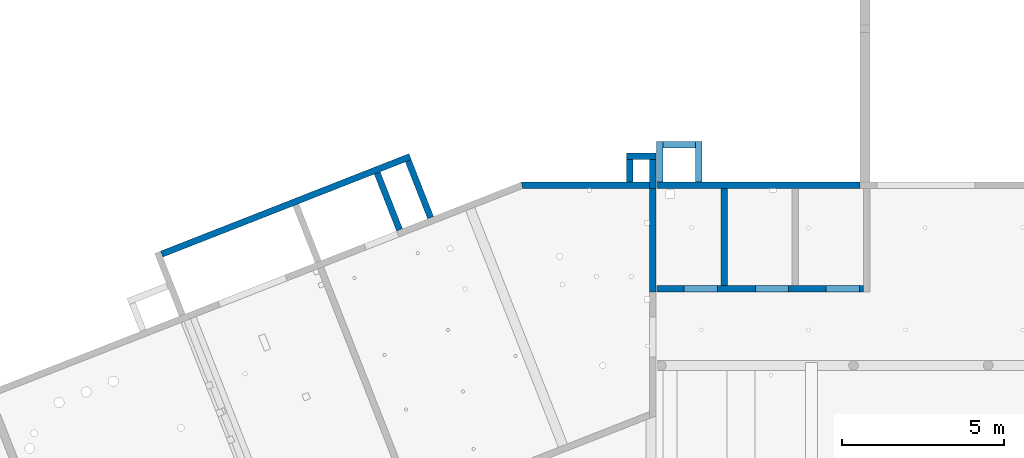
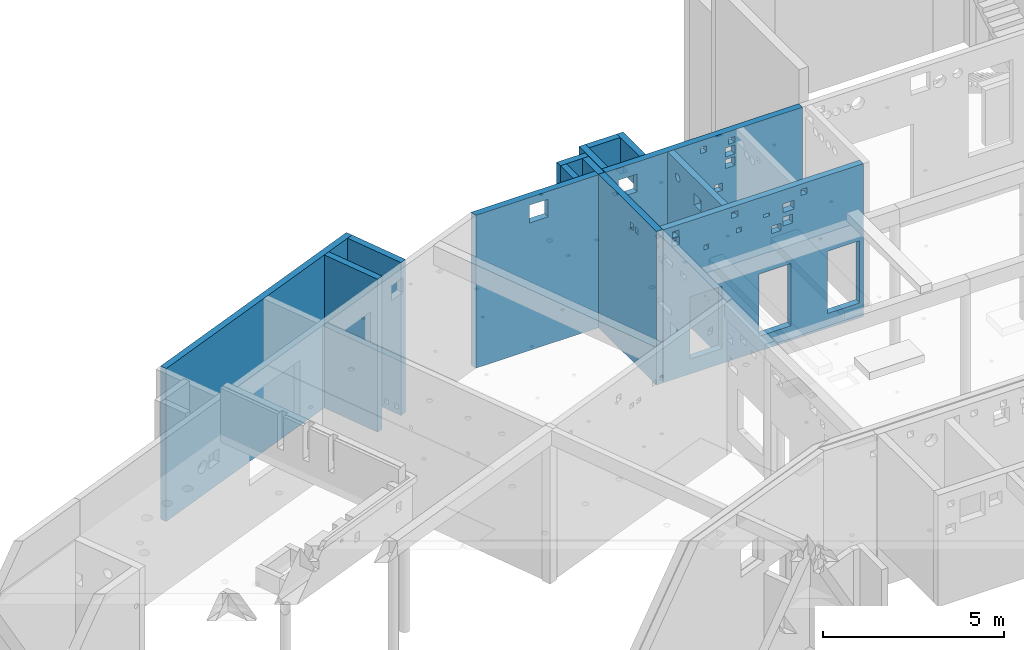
# One storey, part 24 of 28: 14 walls, 28 openings.
"""IFC2X3 building model written with IfcOpenShell, lengths in metres."""

from ifc_helpers import new_model, entity, si_unit, converted_unit, direction, frame, frame_2d, origin, origin_with_axes, place, context, subcontext, project, spatial, polyline, rectangle, outline, extrude, material, layer, layer_set, layer_usage, element, save


model = new_model("IFC2X3")

# Units and contexts
model_context = context("Model", 3, precision=1e-05, world=origin(), true_north=direction((-0.407059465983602, -0.913401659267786)))
body_context = subcontext(model_context, "Body", "Model", "MODEL_VIEW")
ifc_project = project(units=[si_unit("LENGTHUNIT", "METRE"), si_unit("AREAUNIT", "SQUARE_METRE"), si_unit("VOLUMEUNIT", "CUBIC_METRE"), si_unit("MASSUNIT", "GRAM", prefix="KILO"), converted_unit("PLANEANGLEUNIT", "DEGREE", entity("IfcPlaneAngleMeasure", 0.0174532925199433), si_unit("PLANEANGLEUNIT", "RADIAN"), dimensions=[0, 0, 0, 0, 0, 0, 0])], contexts=[model_context])

# Site, buildings, storey
site_placement = place(None, origin())
site = spatial("IfcSite", under=ifc_project, at=site_placement, Name="Site", CompositionType="ELEMENT")
building_1_placement = place(site_placement, origin())
building_1 = spatial("IfcBuilding", under=site, at=building_1_placement, Name="Site", CompositionType="COMPLEX")
building_2_placement = place(building_1_placement, origin())
building_2 = spatial("IfcBuilding", under=building_1, at=building_2_placement, Name="Bâtiments", CompositionType="ELEMENT")
storey_placement = place(building_2_placement, frame((0.0, 0.0, -5.3)))
storey = spatial("IfcBuildingStorey", under=building_2, at=storey_placement, Name="SOUS-SOL", CompositionType="ELEMENT", Elevation=-5.3)

# Walls
ifc_material_1 = material(Name="Béton")
ifc_layer_1 = layer(ifc_material_1, 0.2)
ifc_layer_set_1 = layer_set([ifc_layer_1])
ifc_layer_usage_1 = layer_usage(ifc_layer_set_1, "AXIS2", "POSITIVE", 0.0)
wall_1_placement = place(storey_placement, frame((20.2419990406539, 10.2884302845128, 0.0), z_axis=(0.0, 0.0, 1.0), x_axis=(-0.930910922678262, -0.365246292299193, 0.0)))
element("IfcWallStandardCase", 1, at=wall_1_placement, inside=storey, material=ifc_layer_usage_1, context=body_context, shape_type="SweptSolid", body=[
    extrude(rectangle(XDim=8.23416124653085, YDim=0.2, at=frame_2d((4.11708062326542, 0.0999999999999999), x_axis=(1.0, 0.0))), origin_with_axes(), (0.0, 0.0, 1.0), 5.16),
])
ifc_material_2 = material(Name="Béton")
ifc_layer_2 = layer(ifc_material_2, 0.200000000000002)
ifc_layer_set_2 = layer_set([ifc_layer_2])
ifc_layer_usage_2 = layer_usage(ifc_layer_set_2, "AXIS2", "POSITIVE", 0.0)
wall_2_placement = place(storey_placement, frame((20.0444121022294, 7.971919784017, 0.0), z_axis=(0.0, 0.0, 1.0), x_axis=(-0.365246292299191, 0.930910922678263, 0.0)))
element("IfcWallStandardCase", 2, at=wall_2_placement, inside=storey, material=ifc_layer_usage_2, context=body_context, shape_type="SweptSolid", body=[
    extrude(rectangle(XDim=1.88429703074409, YDim=0.200000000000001, at=frame_2d((0.942148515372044, 0.100000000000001), x_axis=(1.0, 0.0))), origin_with_axes(), (0.0, 0.0, 1.0), 5.16),
])
ifc_material_3 = material(Name="Béton")
ifc_layer_3 = layer(ifc_material_3, 0.200000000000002)
ifc_layer_set_3 = layer_set([ifc_layer_3])
ifc_layer_usage_3 = layer_usage(ifc_layer_set_3, "AXIS2", "POSITIVE", 0.0)
wall_3_placement = place(storey_placement, frame((21.0032808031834, 8.34813541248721, 0.0), z_axis=(0.0, 0.0, 1.0), x_axis=(-0.365246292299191, 0.930910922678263, 0.0)))
element("IfcWallStandardCase", 3, at=wall_3_placement, inside=storey, material=ifc_layer_usage_3, context=body_context, shape_type="SweptSolid", body=[
    extrude(rectangle(XDim=1.88429703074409, YDim=0.200000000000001, at=frame_2d((0.942148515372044, 0.100000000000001), x_axis=(1.0, 0.0))), origin_with_axes(), (0.0, 0.0, 1.0), 5.16),
])

# Wall, openings
ifc_material_4 = material(Name="Béton")
ifc_layer_4 = layer(ifc_material_4, 0.2)
ifc_layer_set_4 = layer_set([ifc_layer_4])
ifc_layer_usage_4 = layer_usage(ifc_layer_set_4, "AXIS2", "POSITIVE", -0.1)
wall_4_placement = place(storey_placement, frame((27.8826400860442, 6.01706783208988, 0.0)))
wall_4 = element("IfcWallStandardCase", 4, at=wall_4_placement, inside=storey, material=ifc_layer_usage_4, context=body_context, shape_type="SweptSolid", body=[
    extrude(outline(polyline([(0.0, 0.0), (6.3854506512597, 0.0), (6.3854506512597, 0.2), (4.59005408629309e-07, 0.2), (0.0, 0.0)])), origin_with_axes(), (0.0, 0.0, 1.0), 5.16),
])
opening_1_placement = place(wall_4_placement, frame((5.23295583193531, 0.0, 0.5), z_axis=(0.0, 1.0, 0.0), x_axis=(0.0, 0.0, 1.0)))
element("IfcOpeningElement", 5, at=opening_1_placement, cuts=wall_4, Name="Baie de porte", ObjectType="Opening", context=body_context, shape_type="SweptSolid", body=[
    extrude(outline(polyline([(0.0, 1.03), (2.1, 1.03), (2.1, 0.0), (0.0, 0.0), (0.0, 1.03)])), origin_with_axes(), (0.0, 0.0, 1.0), 0.2),
])
opening_2_placement = place(wall_4_placement, frame((4.38619867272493, 0.0, 4.78), z_axis=(0.0, 1.0, 0.0), x_axis=(0.0, 0.0, 1.0)))
element("IfcOpeningElement", 6, at=opening_2_placement, cuts=wall_4, Name="TE-030", ObjectType="Opening", context=body_context, shape_type="SweptSolid", body=[
    extrude(outline(polyline([(0.0, 0.2), (0.2, 0.2), (0.2, 0.0), (0.0, 0.0), (0.0, 0.2)])), origin_with_axes(), (0.0, 0.0, 1.0), 0.2),
])
opening_3_placement = place(wall_4_placement, frame((0.275077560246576, 0.0, 4.5), z_axis=(0.0, 1.0, 0.0), x_axis=(0.0, 0.0, 1.0)))
element("IfcOpeningElement", 7, at=opening_3_placement, cuts=wall_4, Name="PB-023", ObjectType="Opening", context=body_context, shape_type="SweptSolid", body=[
    extrude(outline(polyline([(0.0, 0.25), (0.25, 0.25), (0.25, 0.0), (0.0, 0.0), (0.0, 0.25)])), origin_with_axes(), (0.0, 0.0, 1.0), 0.2),
])
opening_4_placement = place(wall_4_placement, frame((0.300077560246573, 0.0, 4.78), z_axis=(0.0, 1.0, 0.0), x_axis=(0.0, 0.0, 1.0)))
element("IfcOpeningElement", 8, at=opening_4_placement, cuts=wall_4, Name="TE-028", ObjectType="Opening", context=body_context, shape_type="SweptSolid", body=[
    extrude(outline(polyline([(0.0, 0.2), (0.2, 0.2), (0.2, 0.0), (0.0, 0.0), (0.0, 0.2)])), origin_with_axes(), (0.0, 0.0, 1.0), 0.2),
])
opening_5_placement = place(wall_4_placement, frame((2.34227170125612, 0.0, 4.24), z_axis=(0.0, 1.0, 0.0), x_axis=(0.0, 0.0, 1.0)))
element("IfcOpeningElement", 9, at=opening_5_placement, cuts=wall_4, Name="PB-025", ObjectType="Opening", context=body_context, shape_type="SweptSolid", body=[
    extrude(outline(polyline([(0.0, 0.15), (0.15, 0.15), (0.15, 0.0), (0.0, 0.0), (0.0, 0.15)])), origin_with_axes(), (0.0, 0.0, 1.0), 0.2),
])
opening_6_placement = place(wall_4_placement, frame((2.18469592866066, 0.0, 4.78), z_axis=(0.0, 1.0, 0.0), x_axis=(0.0, 0.0, 1.0)))
element("IfcOpeningElement", 10, at=opening_6_placement, cuts=wall_4, Name="TE-029", ObjectType="Opening", context=body_context, shape_type="SweptSolid", body=[
    extrude(outline(polyline([(0.0, 0.2), (0.2, 0.2), (0.2, 0.0), (0.0, 0.0), (0.0, 0.2)])), origin_with_axes(), (0.0, 0.0, 1.0), 0.2),
])
opening_7_placement = place(wall_4_placement, frame((1.29368546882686, 0.0, 4.03), z_axis=(0.0, 1.0, 0.0), x_axis=(0.0, 0.0, 1.0)))
element("IfcOpeningElement", 11, at=opening_7_placement, cuts=wall_4, Name="PB-024", ObjectType="Opening", context=body_context, shape_type="SweptSolid", body=[
    extrude(outline(polyline([(0.0, 0.15), (0.15, 0.15), (0.15, 0.0), (0.0, 0.0), (0.0, 0.15)])), origin_with_axes(), (0.0, 0.0, 1.0), 0.2),
])
opening_8_placement = place(wall_4_placement, frame((1.8773502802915, 0.2, 0.5), z_axis=(0.0, -1.0, 0.0), x_axis=(0.0, 0.0, 1.0)))
element("IfcOpeningElement", 12, at=opening_8_placement, cuts=wall_4, Name="Baie de porte", ObjectType="Opening", context=body_context, shape_type="SweptSolid", body=[
    extrude(outline(polyline([(0.0, 1.03), (2.1, 1.03), (2.1, 0.0), (0.0, 0.0), (0.0, 1.03)])), origin_with_axes(), (0.0, 0.0, 1.0), 0.2),
])
opening_9_placement = place(wall_4_placement, frame((3.82473714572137, 0.0, 3.95), z_axis=(0.0, 1.0, 0.0), x_axis=(0.0, 0.0, 1.0)))
element("IfcOpeningElement", 13, at=opening_9_placement, cuts=wall_4, Name="TE-020", ObjectType="Opening", context=body_context, shape_type="SweptSolid", body=[
    extrude(outline(polyline([(0.0, 0.3), (0.3, 0.3), (0.3, 0.0), (0.0, 0.0), (0.0, 0.3)])), origin_with_axes(), (0.0, 0.0, 1.0), 0.2),
])
opening_10_placement = place(wall_4_placement, frame((3.82473714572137, 0.0, 4.4), z_axis=(0.0, 1.0, 0.0), x_axis=(0.0, 0.0, 1.0)))
element("IfcOpeningElement", 14, at=opening_10_placement, cuts=wall_4, Name="PB-030", ObjectType="Opening", context=body_context, shape_type="SweptSolid", body=[
    extrude(outline(polyline([(0.0, 0.35), (0.3, 0.35), (0.3, 0.0), (0.0, 0.0), (0.0, 0.35)])), origin_with_axes(), (0.0, 0.0, 1.0), 0.2),
])
opening_11_placement = place(wall_4_placement, frame((3.44890773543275, 0.0, 3.82), z_axis=(0.0, 1.0, 0.0), x_axis=(0.0, 0.0, 1.0)))
element("IfcOpeningElement", 15, at=opening_11_placement, cuts=wall_4, Name="PB-029", ObjectType="Opening", context=body_context, shape_type="SweptSolid", body=[
    extrude(outline(polyline([(0.0, 0.3), (0.25, 0.3), (0.25, 0.0), (0.0, 0.0), (0.0, 0.3)])), origin_with_axes(), (0.0, 0.0, 1.0), 0.2),
])
opening_12_placement = place(wall_4_placement, frame((3.19567644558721, 0.0, 4.45), z_axis=(0.0, 1.0, 0.0), x_axis=(0.0, 0.0, 1.0)))
element("IfcOpeningElement", 16, at=opening_12_placement, cuts=wall_4, Name="PB-028", ObjectType="Opening", context=body_context, shape_type="SweptSolid", body=[
    extrude(outline(polyline([(0.0, 0.2), (0.1, 0.2), (0.1, 0.0), (0.0, 0.0), (0.0, 0.2)])), origin_with_axes(), (0.0, 0.0, 1.0), 0.2),
])
opening_13_placement = place(wall_4_placement, frame((4.07734683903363, 0.2, 0.5), z_axis=(0.0, -1.0, 0.0), x_axis=(0.0, 0.0, 1.0)))
element("IfcOpeningElement", 17, at=opening_13_placement, cuts=wall_4, Name="Baie de porte", ObjectType="Opening", context=body_context, shape_type="SweptSolid", body=[
    extrude(outline(polyline([(0.0, 1.03), (2.1, 1.03), (2.1, 0.0), (0.0, 0.0), (0.0, 1.03)])), origin_with_axes(), (0.0, 0.0, 1.0), 0.2),
])

ifc_material_5 = material(Name="Béton")
ifc_layer_5 = layer(ifc_material_5, 0.200000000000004)
ifc_layer_set_5 = layer_set([ifc_layer_5])
ifc_layer_usage_5 = layer_usage(ifc_layer_set_5, "AXIS2", "POSITIVE", -0.1)
wall_5_placement = place(storey_placement, frame((30.0673360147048, 6.21706783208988, 0.0), z_axis=(0.0, 0.0, 1.0), x_axis=(0.0, 1.0, 0.0)))
wall_5 = element("IfcWallStandardCase", 18, at=wall_5_placement, inside=storey, material=ifc_layer_usage_5, context=body_context, shape_type="SweptSolid", body=[
    extrude(rectangle(XDim=2.99331947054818, YDim=0.200000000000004, at=frame_2d((1.49665973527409, 0.100000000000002), x_axis=(1.0, 0.0))), origin_with_axes(), (0.0, 0.0, 1.0), 5.16),
])
opening_14_placement = place(wall_5_placement, frame((2.31708956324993, 0.0, 4.5), z_axis=(0.0, 1.0, 0.0), x_axis=(0.0, 0.0, 1.0)))
element("IfcOpeningElement", 19, at=opening_14_placement, cuts=wall_5, Name="CVC-069", ObjectType="Opening", context=body_context, shape_type="SweptSolid", body=[
    extrude(outline(polyline([(0.124999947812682, 0.0), (0.111933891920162, 0.000684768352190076), (0.0990109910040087, 0.00273156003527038), (0.086372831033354, 0.00611794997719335), (0.0741578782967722, 0.0108068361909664), (0.0624999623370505, 0.0167468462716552), (0.0515268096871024, 0.0238729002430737), (0.0413586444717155, 0.0321069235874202), (0.0321068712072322, 0.0413587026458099), (0.0238728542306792, 0.0515268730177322), (0.0167468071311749, 0.0625000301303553), (0.0108068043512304, 0.0741579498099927), (0.00611792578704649, 0.0863729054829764), (0.00273154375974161, 0.099011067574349), (0.000684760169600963, 0.111933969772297), (0.0, 0.125000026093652), (0.000684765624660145, 0.138066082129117), (0.00273155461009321, 0.150988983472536), (0.00611794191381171, 0.163627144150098), (0.010806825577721, 0.175842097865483), (0.0167468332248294, 0.187500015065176), (0.0238728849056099, 0.198473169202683), (0.0321069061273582, 0.208641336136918), (0.0413586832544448, 0.217893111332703), (0.0515268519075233, 0.226127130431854), (0.0625000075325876, 0.233253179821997), (0.0741579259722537, 0.239193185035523), (0.0863728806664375, 0.24388206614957), (0.0990110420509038, 0.247268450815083), (0.111933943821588, 0.24931523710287), (0.124999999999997, 0.25), (0.138066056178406, 0.24931523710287), (0.150988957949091, 0.247268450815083), (0.163627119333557, 0.24388206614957), (0.175842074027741, 0.239193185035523), (0.187499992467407, 0.233253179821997), (0.198473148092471, 0.226127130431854), (0.20864131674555, 0.217893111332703), (0.217893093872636, 0.208641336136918), (0.226127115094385, 0.198473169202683), (0.233253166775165, 0.187500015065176), (0.239193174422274, 0.175842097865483), (0.243882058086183, 0.163627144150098), (0.247268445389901, 0.150988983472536), (0.249315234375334, 0.138066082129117), (0.249999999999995, 0.125000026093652), (0.249315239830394, 0.111933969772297), (0.247268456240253, 0.099011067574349), (0.243882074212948, 0.0863729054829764), (0.239193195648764, 0.0741579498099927), (0.23325319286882, 0.0625000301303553), (0.226127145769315, 0.0515268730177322), (0.217893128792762, 0.0413587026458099), (0.208641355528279, 0.0321069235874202), (0.198473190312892, 0.0238729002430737), (0.187500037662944, 0.0167468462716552), (0.175842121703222, 0.0108068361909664), (0.163627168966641, 0.00611794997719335), (0.150989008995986, 0.00273156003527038), (0.138066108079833, 0.000684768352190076), (0.124999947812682, 0.0)])), origin_with_axes(), (0.0, 0.0, 1.0), 0.200000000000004),
])
opening_15_placement = place(wall_5_placement, frame((1.07659599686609, 0.0, 3.82), z_axis=(0.0, 1.0, 0.0), x_axis=(0.0, 0.0, 1.0)))
element("IfcOpeningElement", 20, at=opening_15_placement, cuts=wall_5, Name="PB-015", ObjectType="Opening", context=body_context, shape_type="SweptSolid", body=[
    extrude(outline(polyline([(0.0, 0.15), (0.15, 0.15), (0.15, 0.0), (0.0, 0.0), (0.0, 0.15)])), origin_with_axes(), (0.0, 0.0, 1.0), 0.200000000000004),
])
opening_16_placement = place(wall_5_placement, frame((1.14385814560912, 0.0, 4.25), z_axis=(0.0, 1.0, 0.0), x_axis=(0.0, 0.0, 1.0)))
element("IfcOpeningElement", 21, at=opening_16_placement, cuts=wall_5, Name="CVC-070", ObjectType="Opening", context=body_context, shape_type="SweptSolid", body=[
    extrude(outline(polyline([(0.0, 0.4), (0.4, 0.4), (0.4, 0.0), (0.0, 0.0), (0.0, 0.4)])), origin_with_axes(), (0.0, 0.0, 1.0), 0.200000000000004),
])
opening_17_placement = place(wall_5_placement, frame((0.809236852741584, 0.0, 4.01), z_axis=(0.0, 1.0, 0.0), x_axis=(0.0, 0.0, 1.0)))
element("IfcOpeningElement", 22, at=opening_17_placement, cuts=wall_5, Name="PB-017", ObjectType="Opening", context=body_context, shape_type="SweptSolid", body=[
    extrude(outline(polyline([(0.0, 0.15), (0.15, 0.15), (0.15, 0.0), (0.0, 0.0), (0.0, 0.15)])), origin_with_axes(), (0.0, 0.0, 1.0), 0.200000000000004),
])

# Wall, opening
ifc_material_6 = material(Name="Béton")
ifc_layer_6 = layer(ifc_material_6, 0.200000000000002)
ifc_layer_set_6 = layer_set([ifc_layer_6])
ifc_layer_usage_6 = layer_usage(ifc_layer_set_6, "AXIS2", "POSITIVE", 0.0)
wall_6_placement = place(storey_placement, frame((27.6626478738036, 9.41038730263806, 0.0), z_axis=(0.0, 0.0, 1.0), x_axis=(-1.0, 4.6027254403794e-16, 0.0)))
wall_6 = element("IfcWallStandardCase", 23, at=wall_6_placement, inside=storey, material=ifc_layer_usage_6, context=body_context, shape_type="SweptSolid", body=[
    extrude(outline(polyline([(-3.95198329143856, -0.200000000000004), (9.20545088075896e-17, -0.200000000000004), (-0.0378315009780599, -1.8364022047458e-15), (-3.95198283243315, -1.81898919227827e-15), (-3.95198329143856, -0.200000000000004)])), frame((3.95198329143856, 0.200000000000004, 0.0), z_axis=(0.0, 0.0, 1.0), x_axis=(1.0, 0.0, 0.0)), (0.0, 0.0, 1.0), 5.16),
])
opening_18_placement = place(wall_6_placement, frame((2.20999839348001, 0.200000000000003, 4.3), z_axis=(0.0, -1.0, 0.0), x_axis=(0.0, 0.0, 1.0)))
element("IfcOpeningElement", 24, at=opening_18_placement, cuts=wall_6, Name="RCU", ObjectType="Opening", context=body_context, shape_type="SweptSolid", body=[
    extrude(outline(polyline([(0.0, 0.6), (0.6, 0.6), (0.6, 0.0), (0.0, 0.0), (0.0, 0.6)])), origin_with_axes(), (0.0, 0.0, 1.0), 0.200000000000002),
])

# Wall, openings
ifc_material_7 = material(Name="Béton")
ifc_layer_7 = layer(ifc_material_7, 0.200000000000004)
ifc_layer_set_7 = layer_set([ifc_layer_7])
ifc_layer_usage_7 = layer_usage(ifc_layer_set_7, "AXIS2", "POSITIVE", 0.0)
wall_7_placement = place(storey_placement, frame((34.1680907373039, 9.41038730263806, 0.0), z_axis=(0.0, 0.0, 1.0), x_axis=(-1.0, 0.0, 0.0)))
wall_7 = element("IfcWallStandardCase", 25, at=wall_7_placement, inside=storey, material=ifc_layer_usage_7, context=body_context, shape_type="SweptSolid", body=[
    extrude(rectangle(XDim=6.28544638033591, YDim=0.200000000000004, at=frame_2d((3.14272319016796, 0.100000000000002), x_axis=(1.0, 0.0))), origin_with_axes(), (0.0, 0.0, 1.0), 5.16),
])
opening_19_placement = place(wall_7_placement, frame((5.87579589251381, 0.200000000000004, 4.15), z_axis=(0.0, -1.0, 0.0), x_axis=(0.0, 0.0, 1.0)))
element("IfcOpeningElement", 26, at=opening_19_placement, cuts=wall_7, Name="CVC-061", ObjectType="Opening", context=body_context, shape_type="SweptSolid", body=[
    extrude(outline(polyline([(0.0, 0.6), (0.6, 0.6), (0.6, 0.0), (0.0, 0.0), (0.0, 0.6)])), origin_with_axes(), (0.0, 0.0, 1.0), 0.200000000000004),
])
opening_20_placement = place(wall_7_placement, frame((3.25897719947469, 0.200000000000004, 4.73), z_axis=(0.0, 0.0, 1.0), x_axis=(-1.0, 0.0, 0.0)))
element("IfcOpeningElement", 27, at=opening_20_placement, cuts=wall_7, Name="TE-022", ObjectType="Opening", context=body_context, shape_type="SweptSolid", body=[
    extrude(outline(polyline([(0.0, 0.0), (0.200000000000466, 0.0), (0.200000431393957, 0.200000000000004), (4.31393491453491e-07, 0.200000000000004), (0.0, 0.0)])), origin_with_axes(), (0.0, 0.0, 1.0), 0.2),
])
opening_21_placement = place(wall_7_placement, frame((2.46073368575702, 0.200000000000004, 3.95), z_axis=(0.0, -1.0, 0.0), x_axis=(0.0, 0.0, 1.0)))
element("IfcOpeningElement", 28, at=opening_21_placement, cuts=wall_7, Name="TE-021", ObjectType="Opening", context=body_context, shape_type="SweptSolid", body=[
    extrude(outline(polyline([(0.0, 0.3), (0.3, 0.3), (0.3, 0.0), (0.0, 0.0), (0.0, 0.3)])), origin_with_axes(), (0.0, 0.0, 1.0), 0.200000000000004),
])
opening_22_placement = place(wall_7_placement, frame((2.36073397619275, 0.200000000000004, 4.73), z_axis=(0.0, 0.0, 1.0), x_axis=(-1.0, 0.0, 0.0)))
element("IfcOpeningElement", 29, at=opening_22_placement, cuts=wall_7, Name="TE-022", ObjectType="Opening", context=body_context, shape_type="SweptSolid", body=[
    extrude(outline(polyline([(0.0, 0.0), (0.200000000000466, 0.0), (0.200000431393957, 0.200000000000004), (4.31393491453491e-07, 0.200000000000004), (0.0, 0.0)])), origin_with_axes(), (0.0, 0.0, 1.0), 0.2),
])
opening_23_placement = place(wall_7_placement, frame((2.46073368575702, 0.200000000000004, 4.34), z_axis=(0.0, -1.0, 0.0), x_axis=(0.0, 0.0, 1.0)))
element("IfcOpeningElement", 30, at=opening_23_placement, cuts=wall_7, Name="PB-005", ObjectType="Opening", context=body_context, shape_type="SweptSolid", body=[
    extrude(outline(polyline([(0.0, 0.299999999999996), (0.3, 0.299999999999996), (0.3, 0.0), (0.0, 0.0), (0.0, 0.299999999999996)])), origin_with_axes(), (0.0, 0.0, 1.0), 0.200000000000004),
])
opening_24_placement = place(wall_7_placement, frame((2.80897719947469, 0.200000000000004, 3.25), z_axis=(0.0, -1.0, 0.0), x_axis=(0.0, 0.0, 1.0)))
element("IfcOpeningElement", 31, at=opening_24_placement, cuts=wall_7, Name="PB-004", ObjectType="Opening", context=body_context, shape_type="SweptSolid", body=[
    extrude(outline(polyline([(0.0, 0.25), (0.25, 0.25), (0.25, 0.0), (0.0, 0.0), (0.0, 0.25)])), origin_with_axes(), (0.0, 0.0, 1.0), 0.200000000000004),
])
opening_25_placement = place(wall_7_placement, frame((3.96689570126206, 0.200000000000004, 3.76), z_axis=(0.0, -1.0, 0.0), x_axis=(0.0, 0.0, 1.0)))
element("IfcOpeningElement", 32, at=opening_25_placement, cuts=wall_7, Name="PB-002", ObjectType="Opening", context=body_context, shape_type="SweptSolid", body=[
    extrude(outline(polyline([(0.0, 0.2), (0.2, 0.2), (0.2, 0.0), (0.0, 0.0), (0.0, 0.2)])), origin_with_axes(), (0.0, 0.0, 1.0), 0.200000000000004),
])

# Walls
ifc_material_8 = material(Name="Béton")
ifc_layer_8 = layer(ifc_material_8, 0.199999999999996)
ifc_layer_set_8 = layer_set([ifc_layer_8])
ifc_layer_usage_8 = layer_usage(ifc_layer_set_8, "AXIS2", "POSITIVE", 0.0)
wall_8_placement = place(storey_placement, frame((27.1626494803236, 9.41038730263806, 0.0), z_axis=(0.0, 0.0, 1.0), x_axis=(0.0, 1.0, 0.0)))
element("IfcWallStandardCase", 33, at=wall_8_placement, inside=storey, material=ifc_layer_usage_8, context=body_context, shape_type="SweptSolid", body=[
    extrude(rectangle(XDim=0.700000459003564, YDim=0.199999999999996, at=frame_2d((0.350000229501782, 0.0999999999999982), x_axis=(1.0, 0.0))), origin_with_axes(), (0.0, 0.0, 1.0), 5.16),
])
ifc_material_9 = material(Name="Béton")
ifc_layer_9 = layer(ifc_material_9, 0.199999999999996)
ifc_layer_set_9 = layer_set([ifc_layer_9])
ifc_layer_usage_9 = layer_usage(ifc_layer_set_9, "AXIS2", "POSITIVE", 0.0)
wall_9_placement = place(storey_placement, frame((26.9626494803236, 10.1103877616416, 0.0)))
element("IfcWallStandardCase", 34, at=wall_9_placement, inside=storey, material=ifc_layer_usage_9, context=body_context, shape_type="SweptSolid", body=[
    extrude(outline(polyline([(0.0, 0.0), (0.900000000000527, 0.0), (0.900000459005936, 0.199999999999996), (0.0, 0.199999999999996), (0.0, 0.0)])), origin_with_axes(), (0.0, 0.0, 1.0), 5.16),
])

# Wall, opening
ifc_material_10 = material(Name="Béton")
ifc_layer_10 = layer(ifc_material_10, 0.200000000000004)
ifc_layer_set_10 = layer_set([ifc_layer_10])
ifc_layer_usage_10 = layer_usage(ifc_layer_set_10, "AXIS2", "POSITIVE", 0.0)
wall_10_placement = place(storey_placement, frame((27.8626474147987, 9.21038730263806, 0.0), z_axis=(0.0, 0.0, 1.0), x_axis=(2.29502704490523e-06, 0.999999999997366, 0.0)))
wall_10 = element("IfcWallStandardCase", 35, at=wall_10_placement, inside=storey, material=ifc_layer_usage_10, context=body_context, shape_type="SweptSolid", body=[
    extrude(outline(polyline([(4.59005408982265e-07, -0.200000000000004), (0.900000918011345, -0.200000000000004), (0.900000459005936, 4.33680868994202e-22), (0.0, 0.0), (4.59005408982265e-07, -0.200000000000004)])), frame((-4.59005408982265e-07, 0.200000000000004, 0.0), z_axis=(0.0, 0.0, 1.0), x_axis=(1.0, 0.0, 0.0)), (0.0, 0.0, 1.0), 5.16),
])
opening_26_placement = place(wall_10_placement, frame((-1.60651418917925e-06, 0.699997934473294, 4.33), z_axis=(0.999999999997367, 2.29502704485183e-06, 0.0), x_axis=(0.0, 0.0, 1.0)))
element("IfcOpeningElement", 36, at=opening_26_placement, cuts=wall_10, Name="CVC-010", ObjectType="Opening", context=body_context, shape_type="SweptSolid", body=[
    extrude(outline(polyline([(0.0, 0.5), (0.5, 0.5), (0.5, 0.0), (0.0, 0.0), (0.0, 0.5)])), origin_with_axes(), (0.0, 0.0, 1.0), 0.200000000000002),
])

# Walls
ifc_material_11 = material(Name="Béton")
ifc_layer_11 = layer(ifc_material_11, 0.200000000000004)
ifc_layer_set_11 = layer_set([ifc_layer_11])
ifc_layer_usage_11 = layer_usage(ifc_layer_set_11, "AXIS2", "POSITIVE", 0.0)
wall_11_placement = place(storey_placement, frame((27.882644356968, 10.6603873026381, 4.04), z_axis=(0.0, 0.0, 1.0), x_axis=(0.0, -1.0, 0.0)))
element("IfcWallStandardCase", 37, at=wall_11_placement, inside=storey, material=ifc_layer_usage_11, context=body_context, shape_type="SweptSolid", body=[
    extrude(rectangle(XDim=1.25, YDim=0.200000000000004, at=frame_2d((0.625000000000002, 0.100000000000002), x_axis=(1.0, 0.0))), origin_with_axes(), (0.0, 0.0, 1.0), 1.12),
])
ifc_material_12 = material(Name="Béton")
ifc_layer_12 = layer(ifc_material_12, 0.200000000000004)
ifc_layer_set_12 = layer_set([ifc_layer_12])
ifc_layer_usage_12 = layer_usage(ifc_layer_set_12, "AXIS2", "POSITIVE", 0.0)
wall_12_placement = place(storey_placement, frame((29.082644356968, 10.6603873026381, 4.04), z_axis=(0.0, 0.0, 1.0), x_axis=(-1.0, 0.0, 0.0)))
element("IfcWallStandardCase", 38, at=wall_12_placement, inside=storey, material=ifc_layer_usage_12, context=body_context, shape_type="SweptSolid", body=[
    extrude(rectangle(XDim=1.0, YDim=0.200000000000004, at=frame_2d((0.5, 0.100000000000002), x_axis=(1.0, 0.0))), origin_with_axes(), (0.0, 0.0, 1.0), 1.12),
])
ifc_material_13 = material(Name="Béton")
ifc_layer_13 = layer(ifc_material_13, 0.200000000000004)
ifc_layer_set_13 = layer_set([ifc_layer_13])
ifc_layer_usage_13 = layer_usage(ifc_layer_set_13, "AXIS2", "POSITIVE", 0.0)
wall_13_placement = place(storey_placement, frame((29.282644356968, 9.41038730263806, 4.04), z_axis=(0.0, 0.0, 1.0), x_axis=(0.0, 1.0, 0.0)))
element("IfcWallStandardCase", 39, at=wall_13_placement, inside=storey, material=ifc_layer_usage_13, context=body_context, shape_type="SweptSolid", body=[
    extrude(rectangle(XDim=1.25, YDim=0.200000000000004, at=frame_2d((0.625000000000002, 0.100000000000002), x_axis=(1.0, 0.0))), origin_with_axes(), (0.0, 0.0, 1.0), 1.12),
])

# Wall, openings
ifc_material_14 = material(Name="Béton")
ifc_layer_14 = layer(ifc_material_14, 0.199997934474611)
ifc_layer_set_14 = layer_set([ifc_layer_14])
ifc_layer_usage_14 = layer_usage(ifc_layer_set_14, "AXIS2", "POSITIVE", 0.0)
wall_14_placement = place(storey_placement, frame((27.8626400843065, 6.01631068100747, 0.0), z_axis=(0.0, 0.0, 1.0), x_axis=(2.29502703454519e-06, 0.999999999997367, 0.0)))
wall_14 = element("IfcWallStandardCase", 40, at=wall_14_placement, inside=storey, material=ifc_layer_usage_14, context=body_context, shape_type="SweptSolid", body=[
    extrude(outline(polyline([(4.59005406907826e-07, -0.199999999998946), (3.19407708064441, -0.199999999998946), (3.19407662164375, -2.06552433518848e-06), (1.42654046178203, -9.22504997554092e-07), (1.27654046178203, -8.25503924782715e-07), (4.59005407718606e-07, 1.05342981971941e-12), (4.59005406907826e-07, -0.199999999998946)])), frame((-4.59005406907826e-07, 0.199999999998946, 0.0), z_axis=(0.0, 0.0, 1.0), x_axis=(1.0, 0.0, 0.0)), (0.0, 0.0, 1.0), 5.18),
])
opening_27_placement = place(wall_14_placement, frame((1.42654000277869, 0.199999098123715, 4.44), z_axis=(4.54747350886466e-15, -1.0, 0.0), x_axis=(0.0, 0.0, 1.0)))
element("IfcOpeningElement", 41, at=opening_27_placement, cuts=wall_14, Name="PB-012", ObjectType="Opening", context=body_context, shape_type="SweptSolid", body=[
    extrude(outline(polyline([(0.0, 0.15), (0.2, 0.15), (0.2, 0.0), (0.0, 0.0), (0.0, 0.15)])), origin_with_axes(), (0.0, 0.0, 1.0), 0.199999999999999),
])
opening_28_placement = place(wall_14_placement, frame((1.16197650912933, 0.199999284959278, 4.44), z_axis=(5.68434188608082e-15, -1.0, 0.0), x_axis=(0.0, 0.0, 1.0)))
element("IfcOpeningElement", 42, at=opening_28_placement, cuts=wall_14, Name="PB-016", ObjectType="Opening", context=body_context, shape_type="SweptSolid", body=[
    extrude(outline(polyline([(0.0, 0.150000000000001), (0.2, 0.150000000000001), (0.2, 0.0), (0.0, 0.0), (0.0, 0.150000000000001)])), origin_with_axes(), (0.0, 0.0, 1.0), 0.199999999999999),
])

save(model, "model.ifc")
